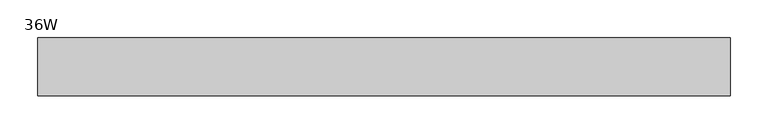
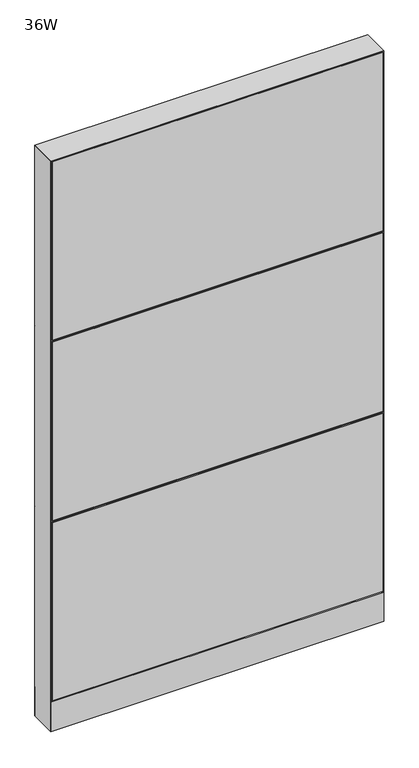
"""IFC4 building model written with IfcOpenShell, lengths in millimetres: furniture geometry, Steelcase - Montage - Frame - 65H - Enhanced Monolithic - Base Cavity : 36W."""

from ifc_helpers import new_model, si_unit, point, frame, frame_2d, origin, origin_with_axes, place, context, project, spatial, polyline, circle_curve, trimmed, segment, composite_curve, outline, extrude, faceted_brep, source, transform, mapped, element, save


def furniture_36w_9bbd0c79(model_context):
    return source(origin(), model_context, "Body", "SolidModel", [
        extrude(outline(polyline([(3.175, 31.7500194), (3.175, 38.1000194), (911.225, 38.1000194), (911.225, 31.7500194), (3.175, 31.7500194)])), frame((0.0, 0.0, 92.075), z_axis=(0.0, 0.0, 1.0), x_axis=(1.0, 0.0, 0.0)), (0.0, 0.0, 1.0), 517.525),
        faceted_brep([(-5.4e-06, 38.102627, 612.7749973), (6.3499917, 31.7526299, 606.4250003), (6.3499917, 31.7526299, 619.1249997), (908.0500047, 31.7526299, 619.1249997), (908.0500047, 31.7526299, 606.4250003), (914.4, 38.1026253, 612.7749956)], [[[0, 1, 2]], [[3, 4, 5]], [[0, 2, 3, 5]], [[5, 4, 1, 0]], [[2, 1, 4, 3]]]),
        faceted_brep([(-5.4e-06, 38.102627, 1136.6499973), (6.3499917, 31.7526299, 1130.3000003), (6.3499917, 31.7526299, 1142.9999997), (908.0500047, 31.7526299, 1142.9999997), (908.0500047, 31.7526299, 1130.3000003), (914.4, 38.1026253, 1136.6499956)], [[[0, 1, 2]], [[3, 4, 5]], [[0, 2, 3, 5]], [[5, 4, 1, 0]], [[2, 1, 4, 3]]]),
        extrude(outline(polyline([(3.175, 31.7500194), (3.175, 38.1000194), (911.225, 38.1000194), (911.225, 31.7500194), (3.175, 31.7500194)])), frame((0.0, 0.0, 615.95), z_axis=(0.0, 0.0, 1.0), x_axis=(1.0, 0.0, 0.0)), (0.0, 0.0, 1.0), 517.525),
        extrude(outline(polyline([(3.175, 31.7500194), (3.175, 38.1000194), (911.225, 38.1000194), (911.225, 31.7500194), (3.175, 31.7500194)])), frame((0.0, 0.0, 1139.825), z_axis=(0.0, 0.0, 1.0), x_axis=(1.0, 0.0, 0.0)), (0.0, 0.0, 1.0), 517.525),
        extrude(outline(polyline([(3.175, -31.7500194), (911.225, -31.7500194), (911.225, -38.1000194), (3.175, -38.1000194), (3.175, -31.7500194)])), frame((0.0, 0.0, 92.075), z_axis=(0.0, 0.0, 1.0), x_axis=(1.0, 0.0, 0.0)), (0.0, 0.0, 1.0), 517.525),
        faceted_brep([(-5.4e-06, -38.102627, 612.7750027), (6.3499917, -31.7526299, 619.1249997), (6.3499917, -31.7526299, 606.4250003), (908.0500047, -31.7526299, 619.1249997), (914.4, -38.1026253, 612.7750044), (908.0500047, -31.7526299, 606.4250003)], [[[0, 1, 2]], [[3, 4, 5]], [[0, 4, 3, 1]], [[4, 0, 2, 5]], [[1, 3, 5, 2]]]),
        faceted_brep([(-5.4e-06, -38.102627, 1136.6500027), (6.3499917, -31.7526299, 1142.9999997), (6.3499917, -31.7526299, 1130.3000003), (908.0500047, -31.7526299, 1142.9999997), (914.4, -38.1026253, 1136.6500044), (908.0500047, -31.7526299, 1130.3000003)], [[[0, 1, 2]], [[3, 4, 5]], [[0, 4, 3, 1]], [[4, 0, 2, 5]], [[1, 3, 5, 2]]]),
        extrude(outline(polyline([(3.175, -31.7500194), (911.225, -31.7500194), (911.225, -38.1000194), (3.175, -38.1000194), (3.175, -31.7500194)])), frame((0.0, 0.0, 615.95), z_axis=(0.0, 0.0, 1.0), x_axis=(1.0, 0.0, 0.0)), (0.0, 0.0, 1.0), 517.525),
        extrude(outline(polyline([(3.175, -31.7500194), (911.225, -31.7500194), (911.225, -38.1000194), (3.175, -38.1000194), (3.175, -31.7500194)])), frame((0.0, 0.0, 1139.825), z_axis=(0.0, 0.0, 1.0), x_axis=(1.0, 0.0, 0.0)), (0.0, 0.0, 1.0), 517.525),
        extrude(outline(polyline([(6.350003, -31.7499985), (908.049997, -31.7499985), (914.4, -38.1000015), (0.0, -38.1000015), (6.350003, -31.7499985)])), frame((0.0, 0.0, 4.064), z_axis=(0.0, 0.0, 1.0), x_axis=(1.0, 0.0, 0.0)), (0.0, 0.0, 1.0), 84.835997),
        extrude(outline(polyline([(6.3500002, 31.7500017), (0.0, 38.1000015), (914.4, 38.1000015), (908.0500002, 31.7500017), (6.3500002, 31.7500017)])), frame((0.0, 0.0, 4.064), z_axis=(0.0, 0.0, 1.0), x_axis=(1.0, 0.0, 0.0)), (0.0, 0.0, 1.0), 84.835997),
        faceted_brep([(914.4, -38.1000015, 1660.525), (0.0, -38.1000015, 1660.525), (6.3500484, -31.749953, 1654.1749516), (908.0499516, -31.749953, 1654.1749516), (6.3500484, 31.749953, 1654.1749516), (908.0499516, 31.749953, 1654.1749516), (0.0, 38.1000015, 1660.525), (914.4, 38.1000015, 1660.525)], [[[0, 1, 2, 3]], [[3, 2, 4, 5]], [[6, 7, 5, 4]], [[1, 0, 7, 6]], [[2, 1, 6, 4]], [[0, 3, 5, 7]]]),
        extrude(outline(composite_curve([segment(trimmed(circle_curve(frame_2d((44.45, 0.0)), 15.24), [point((29.21, 0.0))], [point((59.69, 0.0))], False, "CARTESIAN"), True, "CONTINUOUS"), segment(trimmed(circle_curve(frame_2d((44.45, 0.0)), 15.24), [point((59.69, 0.0))], [point((29.21, 0.0))], False, "CARTESIAN"), True, "CONTINUOUS")], self_intersect=False)), origin_with_axes(), (0.0, 0.0, 1.0), 4.064),
        extrude(outline(composite_curve([segment(trimmed(circle_curve(frame_2d((869.95, 0.0)), 15.24), [point((854.71, 0.0))], [point((885.19, 0.0))], False, "CARTESIAN"), True, "CONTINUOUS"), segment(trimmed(circle_curve(frame_2d((869.95, 0.0)), 15.24), [point((885.19, 0.0))], [point((854.71, 0.0))], False, "CARTESIAN"), True, "CONTINUOUS")], self_intersect=False)), origin_with_axes(), (0.0, 0.0, 1.0), 4.064),
        faceted_brep([(914.4, -38.1000106, 4.064), (914.4, 38.1000015, 4.064), (914.4, 38.1000015, 1660.525), (914.4, -38.1000106, 1660.5249637), (0.0, 38.1000015, 4.064), (0.0, -38.1000015, 4.064), (0.0, -38.1000015, 1660.525), (0.0, 38.1000015, 1660.525), (908.0499879, 31.7500017, 606.425), (6.35, 31.7500017, 606.425), (6.3499998, 31.7500017, 619.125), (908.0499879, 31.7500017, 619.125), (6.35, -31.7499985, 619.125), (908.0499879, -31.7499985, 619.125), (6.350003, -31.7499985, 606.425), (908.0499879, -31.7499985, 606.425), (908.0499879, 31.7500017, 1130.3), (6.35, 31.7500017, 1130.3), (6.3499998, 31.7500017, 1143.0), (908.0499879, 31.7500017, 1143.0), (6.35, -31.7499985, 1143.0), (908.0499879, -31.7499985, 1143.0), (6.350003, -31.7499985, 1130.3), (908.0499879, -31.7499985, 1130.3), (6.35, 31.7500015, 4.064), (6.35, -31.7500015, 4.064), (908.0499879, 31.7499894, 4.064), (908.0499879, -31.7499985, 4.064), (6.35, 31.7500015, 1654.175), (6.35, -31.7500015, 1654.175), (908.0499879, -31.7499985, 1654.1749516), (908.0499879, 31.7499895, 1654.1749516)], [[[0, 1, 2, 3]], [[4, 5, 6, 7]], [[8, 9, 10, 11]], [[11, 10, 12, 13]], [[13, 12, 14, 15]], [[9, 8, 15, 14]], [[16, 17, 18, 19]], [[19, 18, 20, 21]], [[21, 20, 22, 23]], [[17, 16, 23, 22]], [[24, 25, 5, 4]], [[26, 1, 0, 27]], [[24, 4, 7, 28, 18, 17, 10, 9]], [[5, 25, 14, 12, 22, 20, 29, 6]], [[20, 18, 28, 29]], [[25, 24, 9, 14]], [[10, 17, 22, 12]], [[19, 21, 30, 31]], [[26, 27, 15, 8]], [[16, 11, 13, 23]], [[27, 0, 3, 30, 21, 23, 13, 15]], [[1, 26, 8, 11, 16, 19, 31, 2]], [[7, 6, 29, 28]], [[3, 2, 31, 30]]]),
    ])


if __name__ == "__main__":
    model = new_model("IFC4")
    model_context = context("Model", 3, world=origin())
    ifc_project = project(units=[si_unit("LENGTHUNIT", "METRE", prefix="MILLI")], contexts=[model_context])
    site = spatial("IfcSite", under=ifc_project)
    building = spatial("IfcBuilding", under=site)
    placement = place(None, origin())
    furniture_36w_shape = furniture_36w_9bbd0c79(model_context)
    element("IfcFurniture", 1, ObjectType="Steelcase - Montage - Frame - 65H - Enhanced Monolithic - Base Cavity : 36W", at=placement, inside=building, context=model_context, shape_type="MappedRepresentation", body=[
        mapped(furniture_36w_shape, transform((0.0, 0.0, 0.0), x_axis=(1.0, 0.0, 0.0), y_axis=(0.0, 1.0, 0.0), z_axis=(0.0, 0.0, 1.0))),
    ])
    save(model, "model.ifc")
